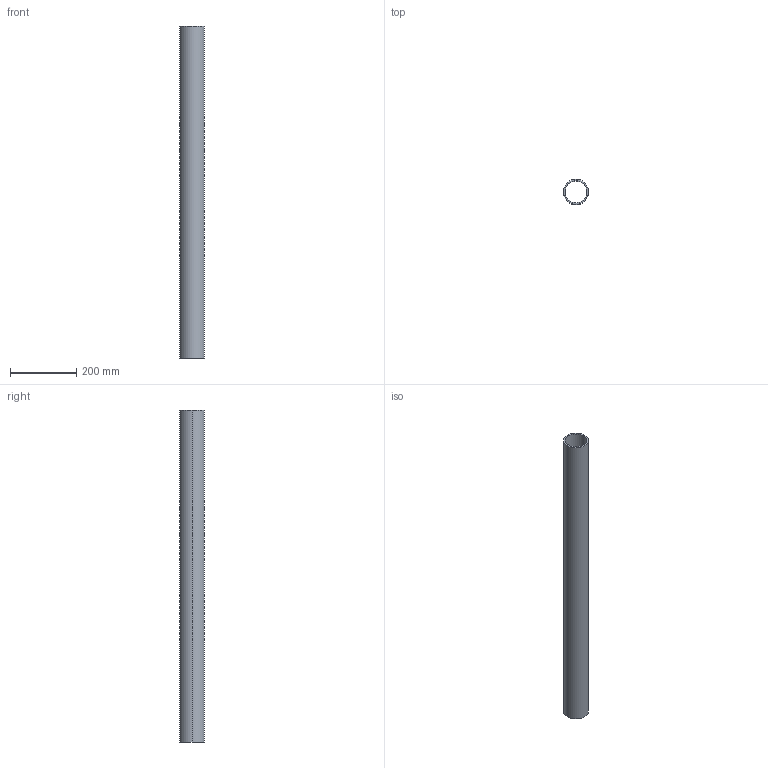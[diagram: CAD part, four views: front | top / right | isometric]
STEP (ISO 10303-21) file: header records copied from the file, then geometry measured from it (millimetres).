
FILE_DESCRIPTION (( 'STEP AP203' ), '1' );
FILE_NAME ('KP_75EL100.step', '2011-08-08T11:50:47', ( '' ), ( '' ), 'SwSTEP 2.0', 'SolidWorks 2011', '' );
FILE_SCHEMA (( 'CONFIG_CONTROL_DESIGN' ));
Length unit declared in the file: millimetre
Products named in the file (1): KP_75EL100
Bounding box: 75.2 x 75.2 x 1000 mm (x, y, z)
Volume: 1020263.6 mm3; surface area: 445633.4 mm2
Topology: 1 solids, 1 shells, 6 faces, 12 edges, 8 vertices
Faces by surface type: cylinder 4, plane 2
Entity records: 245 total; most frequent: DIRECTION 34, CARTESIAN_POINT 27, ORIENTED_EDGE 24, AXIS2_PLACEMENT_3D 15, EDGE_CURVE 12, CIRCLE 8, VERTEX_POINT 8, EDGE_LOOP 8
